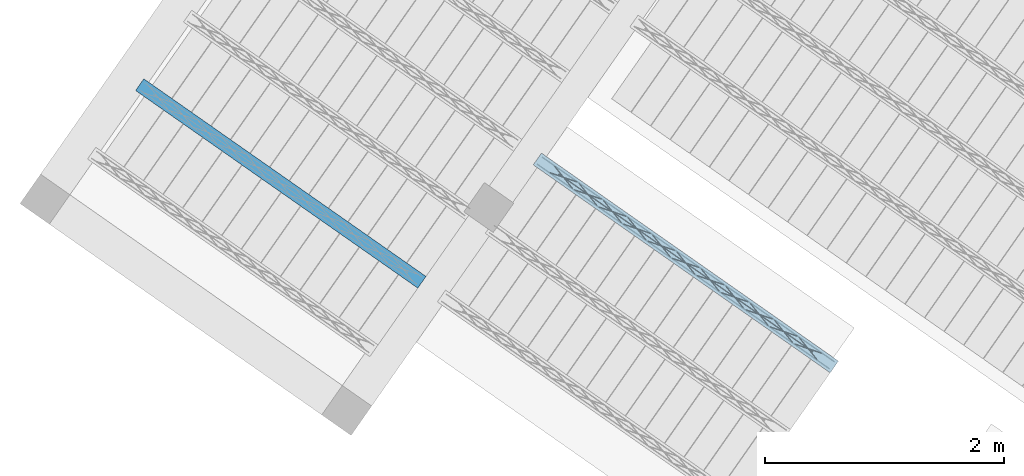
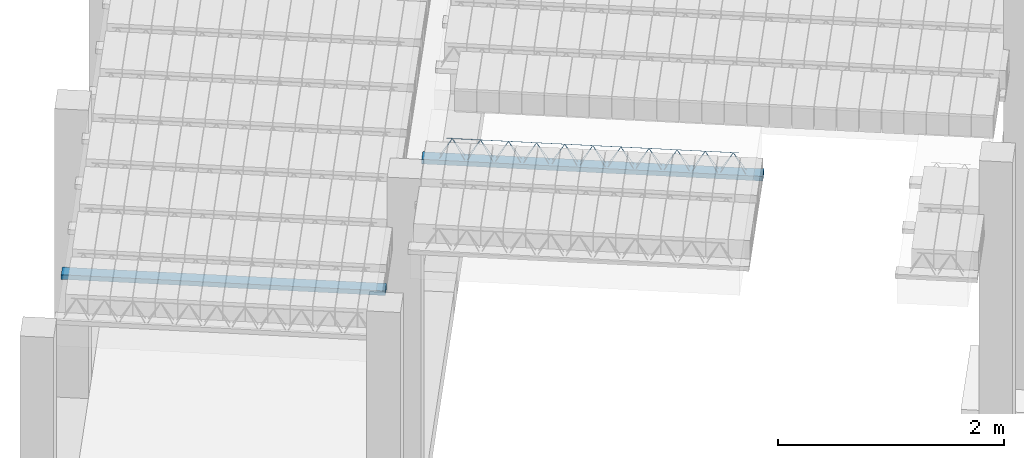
# One storey, part 9 of 80: 2 beams.
"""IFC2X3 building model written with IfcOpenShell, lengths in metres."""

from ifc_helpers import new_model, entity, si_unit, converted_unit, derived_unit, direction, frame, frame_2d, origin, origin_2d_with_axis, place, context, subcontext, project, spatial, rectangle, circle, extrude, material, type_object, element, save


model = new_model("IFC2X3")

# Units and contexts
model_context = context("Model", 3, precision=1e-05, world=origin(), true_north=direction((6.123031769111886e-17, 1.0)))
body_context = subcontext(model_context, "Body", "Model", "MODEL_VIEW")
ifc_project = project(units=[si_unit("LENGTHUNIT", "METRE"), si_unit("AREAUNIT", "SQUARE_METRE"), si_unit("VOLUMEUNIT", "CUBIC_METRE"), converted_unit("PLANEANGLEUNIT", "DEGREE", entity("IfcPlaneAngleMeasure", 0.017453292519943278), si_unit("PLANEANGLEUNIT", "RADIAN"), dimensions=[0, 0, 0, 0, 0, 0, 0]), si_unit("MASSUNIT", "GRAM", prefix="KILO"), derived_unit("MASSDENSITYUNIT", [(si_unit("MASSUNIT", "GRAM", prefix="KILO"), 1), (si_unit("LENGTHUNIT", "METRE"), -3)]), derived_unit("IONCONCENTRATIONUNIT", [(si_unit("MASSUNIT", "GRAM", prefix="KILO"), 1), (si_unit("LENGTHUNIT", "METRE"), -3)]), derived_unit("MOMENTOFINERTIAUNIT", [(si_unit("LENGTHUNIT", "METRE"), 4)]), si_unit("TIMEUNIT", "SECOND"), si_unit("FREQUENCYUNIT", "HERTZ"), si_unit("THERMODYNAMICTEMPERATUREUNIT", "DEGREE_CELSIUS"), derived_unit("THERMALTRANSMITTANCEUNIT", [(si_unit("MASSUNIT", "GRAM", prefix="KILO"), 1), (si_unit("THERMODYNAMICTEMPERATUREUNIT", "KELVIN"), -1), (si_unit("TIMEUNIT", "SECOND"), -3)]), derived_unit("THERMALCONDUCTANCEUNIT", [(si_unit("MASSUNIT", "GRAM", prefix="KILO"), 1), (si_unit("THERMODYNAMICTEMPERATUREUNIT", "KELVIN"), -1), (si_unit("TIMEUNIT", "SECOND"), -3), (si_unit("LENGTHUNIT", "METRE"), 1)]), derived_unit("VOLUMETRICFLOWRATEUNIT", [(si_unit("LENGTHUNIT", "METRE", prefix="DECI"), 3), (si_unit("TIMEUNIT", "SECOND"), -1)]), derived_unit("MASSFLOWRATEUNIT", [(si_unit("MASSUNIT", "GRAM", prefix="KILO"), 1), (si_unit("TIMEUNIT", "SECOND"), -1)]), derived_unit("ROTATIONALFREQUENCYUNIT", [(si_unit("TIMEUNIT", "SECOND"), -1)]), si_unit("ELECTRICCURRENTUNIT", "AMPERE"), si_unit("ELECTRICVOLTAGEUNIT", "VOLT"), si_unit("POWERUNIT", "WATT"), si_unit("FORCEUNIT", "NEWTON", prefix="KILO"), si_unit("ILLUMINANCEUNIT", "LUX"), si_unit("LUMINOUSFLUXUNIT", "LUMEN"), si_unit("LUMINOUSINTENSITYUNIT", "CANDELA"), si_unit("ENERGYUNIT", "JOULE"), derived_unit("USERDEFINED", [(si_unit("MASSUNIT", "GRAM", prefix="KILO"), -1), (si_unit("LENGTHUNIT", "METRE"), -2), (si_unit("TIMEUNIT", "SECOND"), 3), (si_unit("LUMINOUSFLUXUNIT", "LUMEN"), 1)]), derived_unit("USERDEFINED", [(si_unit("MASSUNIT", "GRAM", prefix="KILO"), 1), (si_unit("TIMEUNIT", "SECOND"), -3), (si_unit("LENGTHUNIT", "METRE"), 3), (si_unit("ELECTRICCURRENTUNIT", "AMPERE"), -2)]), derived_unit("SOUNDPOWERUNIT", [(si_unit("MASSUNIT", "GRAM", prefix="KILO"), 1), (si_unit("TIMEUNIT", "SECOND"), -3), (si_unit("LENGTHUNIT", "METRE"), 2)]), derived_unit("SOUNDPRESSUREUNIT", [(si_unit("MASSUNIT", "GRAM", prefix="KILO"), 1), (si_unit("LENGTHUNIT", "METRE"), -1), (si_unit("TIMEUNIT", "SECOND"), -2)]), derived_unit("LINEARVELOCITYUNIT", [(si_unit("LENGTHUNIT", "METRE"), 1), (si_unit("TIMEUNIT", "SECOND"), -1)]), si_unit("PRESSUREUNIT", "PASCAL"), derived_unit("USERDEFINED", [(si_unit("MASSUNIT", "GRAM", prefix="KILO"), 1), (si_unit("LENGTHUNIT", "METRE"), -2), (si_unit("TIMEUNIT", "SECOND"), -2)]), derived_unit("LINEARFORCEUNIT", [(si_unit("MASSUNIT", "GRAM", prefix="KILO"), 1), (si_unit("TIMEUNIT", "SECOND"), -2)]), derived_unit("PLANARFORCEUNIT", [(si_unit("MASSUNIT", "GRAM", prefix="KILO"), 1), (si_unit("LENGTHUNIT", "METRE"), -1), (si_unit("TIMEUNIT", "SECOND"), -2)]), derived_unit("SPECIFICHEATCAPACITYUNIT", [(si_unit("THERMODYNAMICTEMPERATUREUNIT", "KELVIN"), -1), (si_unit("LENGTHUNIT", "METRE"), 2), (si_unit("TIMEUNIT", "SECOND"), -2)]), derived_unit("HEATFLUXDENSITYUNIT", [(si_unit("MASSUNIT", "GRAM", prefix="KILO"), 1), (si_unit("TIMEUNIT", "SECOND"), -3)]), derived_unit("HEATINGVALUEUNIT", [(si_unit("LENGTHUNIT", "METRE"), 2), (si_unit("TIMEUNIT", "SECOND"), -2)]), derived_unit("VAPORPERMEABILITYUNIT", [(si_unit("LENGTHUNIT", "METRE"), -1), (si_unit("TIMEUNIT", "SECOND"), 1)]), derived_unit("DYNAMICVISCOSITYUNIT", [(si_unit("MASSUNIT", "GRAM", prefix="KILO"), 1), (si_unit("TIMEUNIT", "SECOND"), -1), (si_unit("LENGTHUNIT", "METRE"), -1)]), derived_unit("THERMALEXPANSIONCOEFFICIENTUNIT", [(si_unit("THERMODYNAMICTEMPERATUREUNIT", "KELVIN"), -1)]), derived_unit("MODULUSOFELASTICITYUNIT", [(si_unit("MASSUNIT", "GRAM", prefix="KILO"), 1), (si_unit("LENGTHUNIT", "METRE"), -1), (si_unit("TIMEUNIT", "SECOND"), -2)]), derived_unit("ISOTHERMALMOISTURECAPACITYUNIT", [(si_unit("MASSUNIT", "GRAM", prefix="KILO"), -1), (si_unit("LENGTHUNIT", "METRE"), 3)]), derived_unit("MOISTUREDIFFUSIVITYUNIT", [(si_unit("TIMEUNIT", "SECOND"), -1), (si_unit("LENGTHUNIT", "METRE"), 2)]), derived_unit("MASSPERLENGTHUNIT", [(si_unit("MASSUNIT", "GRAM", prefix="KILO"), 1), (si_unit("LENGTHUNIT", "METRE"), -1)]), derived_unit("THERMALRESISTANCEUNIT", [(si_unit("MASSUNIT", "GRAM", prefix="KILO"), -1), (si_unit("TIMEUNIT", "SECOND"), 3), (si_unit("THERMODYNAMICTEMPERATUREUNIT", "KELVIN"), 1)]), derived_unit("ACCELERATIONUNIT", [(si_unit("LENGTHUNIT", "METRE"), 1), (si_unit("TIMEUNIT", "SECOND"), -2)]), derived_unit("ANGULARVELOCITYUNIT", [(si_unit("TIMEUNIT", "SECOND"), -1), (si_unit("PLANEANGLEUNIT", "RADIAN"), 1)]), derived_unit("LINEARSTIFFNESSUNIT", [(si_unit("MASSUNIT", "GRAM", prefix="KILO"), 1), (si_unit("TIMEUNIT", "SECOND"), -2)]), derived_unit("WARPINGCONSTANTUNIT", [(si_unit("LENGTHUNIT", "METRE"), 6)]), derived_unit("LINEARMOMENTUNIT", [(si_unit("MASSUNIT", "GRAM", prefix="KILO"), 1), (si_unit("LENGTHUNIT", "METRE"), 1), (si_unit("TIMEUNIT", "SECOND"), -2)]), derived_unit("TORQUEUNIT", [(si_unit("MASSUNIT", "GRAM", prefix="KILO"), 1), (si_unit("LENGTHUNIT", "METRE"), 2), (si_unit("TIMEUNIT", "SECOND"), -2)])], contexts=[model_context])

# Site, building, storey
site_placement = place(None, origin())
site = spatial("IfcSite", under=ifc_project, at=site_placement, Name="Default", CompositionType="ELEMENT")
building_placement = place(site_placement, origin())
building = spatial("IfcBuilding", under=site, at=building_placement, CompositionType="ELEMENT")
storey_placement = place(building_placement, frame((0.0, 0.0, 95.94)))
storey = spatial("IfcBuildingStorey", under=building, at=storey_placement, Name="PB", CompositionType="ELEMENT", Elevation=95.94)

# Beams
beam_type = type_object("IfcBeamType", Name="Vigueta 3 (Paño 13) (Mf = 11.97)", PredefinedType="JOIST")
beam_1_placement = place(storey_placement, origin())
element("IfcBeam", 1, at=beam_1_placement, inside=storey, type_object=beam_type, Name="Vigueta 3 (Paño 13) (Mf = 11.97)", ObjectType="Mf = 11.97", context=body_context, shape_type="SweptSolid", body=[
    extrude(rectangle(XDim=3.0351844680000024, YDim=0.1200000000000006, at=origin_2d_with_axis()), frame((3.794289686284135, 1.7993815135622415, 3.2799999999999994), z_axis=(0.0, 0.0, 1.0), x_axis=(0.8191520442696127, -0.5735764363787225, 0.0)), (0.0, 0.0, 1.0), 0.04999999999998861),
    extrude(circle(Radius=0.0025, at=origin_2d_with_axis()), frame((4.9971200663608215, 0.913202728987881, 3.3049999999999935), z_axis=(-0.8191520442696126, 0.5735764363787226, 0.0), x_axis=(-0.5735764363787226, -0.8191520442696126, 0.0)), (0.0, 0.0, 1.0), 2.9871844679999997),
    extrude(circle(Radius=0.0025, at=origin_2d_with_axis()), frame((2.7293920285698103, 2.545030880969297, 3.5299999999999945), z_axis=(0.8191520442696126, -0.5735764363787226, 0.0), x_axis=(-0.5735764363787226, -0.8191520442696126, 0.0)), (0.0, 0.0, 1.0), 2.6),
    extrude(circle(Radius=0.0025, at=origin_2d_with_axis()), frame((4.899974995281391, 0.9812244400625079, 3.3049999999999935), z_axis=(-0.3145304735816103, 0.389334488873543, 0.8657304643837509), x_axis=(-0.7778747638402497, -0.6284193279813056, 0.0)), (0.0, 0.0, 1.0), 0.2598961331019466),
    extrude(circle(Radius=0.0025, at=origin_2d_with_axis()), frame((4.69518698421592, 1.1246185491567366, 3.3049999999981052), z_axis=(0.47343050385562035, -0.1624017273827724, 0.8657304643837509), x_axis=(-0.3244721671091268, -0.9458952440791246, 0.0)), (0.0, 0.0, 1.0), 0.25989613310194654),
    extrude(circle(Radius=0.0025, at=origin_2d_with_axis()), frame((4.695186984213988, 1.1246185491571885, 3.3049999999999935), z_axis=(-0.3145304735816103, 0.389334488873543, 0.8657304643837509), x_axis=(-0.7778747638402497, -0.6284193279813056, 0.0)), (0.0, 0.0, 1.0), 0.2598961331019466),
    extrude(circle(Radius=0.0025, at=origin_2d_with_axis()), frame((4.490398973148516, 1.2680126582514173, 3.3049999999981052), z_axis=(0.47343050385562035, -0.1624017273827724, 0.8657304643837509), x_axis=(-0.3244721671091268, -0.9458952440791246, 0.0)), (0.0, 0.0, 1.0), 0.25989613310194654),
    extrude(circle(Radius=0.0025, at=origin_2d_with_axis()), frame((4.4903989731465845, 1.2680126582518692, 3.3049999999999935), z_axis=(-0.3145304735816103, 0.389334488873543, 0.8657304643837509), x_axis=(-0.7778747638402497, -0.6284193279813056, 0.0)), (0.0, 0.0, 1.0), 0.2598961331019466),
    extrude(circle(Radius=0.0025, at=origin_2d_with_axis()), frame((4.285610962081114, 1.411406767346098, 3.3049999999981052), z_axis=(0.47343050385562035, -0.1624017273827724, 0.8657304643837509), x_axis=(-0.3244721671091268, -0.9458952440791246, 0.0)), (0.0, 0.0, 1.0), 0.25989613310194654),
    extrude(circle(Radius=0.0025, at=origin_2d_with_axis()), frame((4.285610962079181, 1.4114067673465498, 3.3049999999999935), z_axis=(-0.3145304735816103, 0.389334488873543, 0.8657304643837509), x_axis=(-0.7778747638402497, -0.6284193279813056, 0.0)), (0.0, 0.0, 1.0), 0.2598961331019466),
    extrude(circle(Radius=0.0025, at=origin_2d_with_axis()), frame((4.080822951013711, 1.5548008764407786, 3.3049999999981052), z_axis=(0.47343050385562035, -0.1624017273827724, 0.8657304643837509), x_axis=(-0.3244721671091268, -0.9458952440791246, 0.0)), (0.0, 0.0, 1.0), 0.25989613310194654),
    extrude(circle(Radius=0.0025, at=origin_2d_with_axis()), frame((4.080822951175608, 1.554800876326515, 3.3049999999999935), z_axis=(-0.3145304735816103, 0.389334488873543, 0.8657304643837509), x_axis=(-0.7778747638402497, -0.6284193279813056, 0.0)), (0.0, 0.0, 1.0), 0.2598961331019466),
    extrude(circle(Radius=0.0025, at=origin_2d_with_axis()), frame((3.876034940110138, 1.698194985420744, 3.3049999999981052), z_axis=(0.47343050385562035, -0.1624017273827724, 0.8657304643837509), x_axis=(-0.3244721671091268, -0.9458952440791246, 0.0)), (0.0, 0.0, 1.0), 0.25989613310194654),
    extrude(circle(Radius=0.0025, at=origin_2d_with_axis()), frame((3.8760349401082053, 1.698194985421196, 3.3049999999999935), z_axis=(-0.3145304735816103, 0.389334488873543, 0.8657304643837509), x_axis=(-0.7778747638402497, -0.6284193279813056, 0.0)), (0.0, 0.0, 1.0), 0.2598961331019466),
    extrude(circle(Radius=0.0025, at=origin_2d_with_axis()), frame((3.6712469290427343, 1.8415890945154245, 3.3049999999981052), z_axis=(0.47343050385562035, -0.1624017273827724, 0.8657304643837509), x_axis=(-0.3244721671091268, -0.9458952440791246, 0.0)), (0.0, 0.0, 1.0), 0.25989613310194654),
    extrude(circle(Radius=0.0025, at=origin_2d_with_axis()), frame((3.671246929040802, 1.8415890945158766, 3.3049999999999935), z_axis=(-0.3145304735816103, 0.389334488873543, 0.8657304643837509), x_axis=(-0.7778747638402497, -0.6284193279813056, 0.0)), (0.0, 0.0, 1.0), 0.2598961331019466),
    extrude(circle(Radius=0.0025, at=origin_2d_with_axis()), frame((3.4664589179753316, 1.9849832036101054, 3.3049999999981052), z_axis=(0.47343050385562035, -0.1624017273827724, 0.8657304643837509), x_axis=(-0.3244721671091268, -0.9458952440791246, 0.0)), (0.0, 0.0, 1.0), 0.25989613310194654),
    extrude(circle(Radius=0.0025, at=origin_2d_with_axis()), frame((3.466458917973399, 1.9849832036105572, 3.3049999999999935), z_axis=(-0.3145304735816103, 0.389334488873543, 0.8657304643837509), x_axis=(-0.7778747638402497, -0.6284193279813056, 0.0)), (0.0, 0.0, 1.0), 0.2598961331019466),
    extrude(circle(Radius=0.0025, at=origin_2d_with_axis()), frame((3.2616709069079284, 2.1283773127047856, 3.3049999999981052), z_axis=(0.47343050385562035, -0.1624017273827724, 0.8657304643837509), x_axis=(-0.3244721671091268, -0.9458952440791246, 0.0)), (0.0, 0.0, 1.0), 0.25989613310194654),
    extrude(circle(Radius=0.0025, at=origin_2d_with_axis()), frame((3.2616709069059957, 2.1283773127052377, 3.3049999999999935), z_axis=(-0.3145304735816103, 0.389334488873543, 0.8657304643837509), x_axis=(-0.7778747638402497, -0.6284193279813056, 0.0)), (0.0, 0.0, 1.0), 0.2598961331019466),
    extrude(circle(Radius=0.0025, at=origin_2d_with_axis()), frame((3.0568828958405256, 2.2717714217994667, 3.3049999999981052), z_axis=(0.47343050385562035, -0.1624017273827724, 0.8657304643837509), x_axis=(-0.3244721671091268, -0.9458952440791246, 0.0)), (0.0, 0.0, 1.0), 0.25989613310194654),
    extrude(circle(Radius=0.0025, at=origin_2d_with_axis()), frame((3.056882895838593, 2.271771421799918, 3.3049999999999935), z_axis=(-0.3145304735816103, 0.389334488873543, 0.8657304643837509), x_axis=(-0.7778747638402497, -0.6284193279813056, 0.0)), (0.0, 0.0, 1.0), 0.2598961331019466),
    extrude(circle(Radius=0.0025, at=origin_2d_with_axis()), frame((2.8520948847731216, 2.4151655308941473, 3.3049999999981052), z_axis=(0.47343050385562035, -0.1624017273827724, 0.8657304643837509), x_axis=(-0.3244721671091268, -0.9458952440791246, 0.0)), (0.0, 0.0, 1.0), 0.25989613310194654),
    extrude(circle(Radius=0.0025, at=origin_2d_with_axis()), frame((2.8520948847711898, 2.415165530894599, 3.3049999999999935), z_axis=(-0.3145304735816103, 0.389334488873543, 0.8657304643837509), x_axis=(-0.7778747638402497, -0.6284193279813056, 0.0)), (0.0, 0.0, 1.0), 0.2598961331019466),
    extrude(circle(Radius=0.0025, at=origin_2d_with_axis()), frame((2.647306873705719, 2.558559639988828, 3.3049999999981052), z_axis=(0.47343050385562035, -0.1624017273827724, 0.8657304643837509), x_axis=(-0.3244721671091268, -0.9458952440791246, 0.0)), (0.0, 0.0, 1.0), 0.25989613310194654),
    extrude(circle(Radius=0.0025, at=origin_2d_with_axis()), frame((5.038417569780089, 0.972181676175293, 3.3049999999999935), z_axis=(-0.8191520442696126, 0.5735764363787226, 0.0), x_axis=(-0.5735764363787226, -0.8191520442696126, 0.0)), (0.0, 0.0, 1.0), 2.9871844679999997),
    extrude(circle(Radius=0.0025, at=origin_2d_with_axis()), frame((4.941272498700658, 1.04020338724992, 3.3049999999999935), z_axis=(-0.47343050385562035, 0.1624017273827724, 0.8657304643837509), x_axis=(-0.3244721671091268, -0.9458952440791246, 0.0)), (0.0, 0.0, 1.0), 0.25989613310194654),
    extrude(circle(Radius=0.0025, at=origin_2d_with_axis()), frame((4.736484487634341, 1.1835974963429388, 3.3049999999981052), z_axis=(0.3145304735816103, -0.389334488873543, 0.8657304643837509), x_axis=(-0.7778747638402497, -0.6284193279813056, 0.0)), (0.0, 0.0, 1.0), 0.2598961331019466),
    extrude(circle(Radius=0.0025, at=origin_2d_with_axis()), frame((4.7364844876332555, 1.1835974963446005, 3.3049999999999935), z_axis=(-0.47343050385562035, 0.1624017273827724, 0.8657304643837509), x_axis=(-0.3244721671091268, -0.9458952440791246, 0.0)), (0.0, 0.0, 1.0), 0.25989613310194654),
    extrude(circle(Radius=0.0025, at=origin_2d_with_axis()), frame((4.531696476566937, 1.3269916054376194, 3.3049999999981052), z_axis=(0.3145304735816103, -0.389334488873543, 0.8657304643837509), x_axis=(-0.7778747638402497, -0.6284193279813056, 0.0)), (0.0, 0.0, 1.0), 0.2598961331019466),
    extrude(circle(Radius=0.0025, at=origin_2d_with_axis()), frame((4.531696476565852, 1.3269916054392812, 3.3049999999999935), z_axis=(-0.47343050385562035, 0.1624017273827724, 0.8657304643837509), x_axis=(-0.3244721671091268, -0.9458952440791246, 0.0)), (0.0, 0.0, 1.0), 0.25989613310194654),
    extrude(circle(Radius=0.0025, at=origin_2d_with_axis()), frame((4.3269084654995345, 1.4703857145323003, 3.3049999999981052), z_axis=(0.3145304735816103, -0.389334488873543, 0.8657304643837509), x_axis=(-0.7778747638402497, -0.6284193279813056, 0.0)), (0.0, 0.0, 1.0), 0.2598961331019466),
    extrude(circle(Radius=0.0025, at=origin_2d_with_axis()), frame((4.326908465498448, 1.4703857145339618, 3.3049999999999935), z_axis=(-0.47343050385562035, 0.1624017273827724, 0.8657304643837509), x_axis=(-0.3244721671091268, -0.9458952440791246, 0.0)), (0.0, 0.0, 1.0), 0.25989613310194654),
    extrude(circle(Radius=0.0025, at=origin_2d_with_axis()), frame((4.122120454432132, 1.6137798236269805, 3.3049999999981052), z_axis=(0.3145304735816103, -0.389334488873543, 0.8657304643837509), x_axis=(-0.7778747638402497, -0.6284193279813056, 0.0)), (0.0, 0.0, 1.0), 0.2598961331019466),
    extrude(circle(Radius=0.0025, at=origin_2d_with_axis()), frame((4.122120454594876, 1.6137798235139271, 3.3049999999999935), z_axis=(-0.47343050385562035, 0.1624017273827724, 0.8657304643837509), x_axis=(-0.3244721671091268, -0.9458952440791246, 0.0)), (0.0, 0.0, 1.0), 0.25989613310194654),
    extrude(circle(Radius=0.0025, at=origin_2d_with_axis()), frame((3.917332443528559, 1.7571739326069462, 3.3049999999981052), z_axis=(0.3145304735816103, -0.389334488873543, 0.8657304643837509), x_axis=(-0.7778747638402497, -0.6284193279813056, 0.0)), (0.0, 0.0, 1.0), 0.2598961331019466),
    extrude(circle(Radius=0.0025, at=origin_2d_with_axis()), frame((3.917332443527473, 1.757173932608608, 3.3049999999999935), z_axis=(-0.47343050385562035, 0.1624017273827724, 0.8657304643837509), x_axis=(-0.3244721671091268, -0.9458952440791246, 0.0)), (0.0, 0.0, 1.0), 0.25989613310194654),
    extrude(circle(Radius=0.0025, at=origin_2d_with_axis()), frame((3.712544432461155, 1.9005680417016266, 3.3049999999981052), z_axis=(0.3145304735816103, -0.389334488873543, 0.8657304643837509), x_axis=(-0.7778747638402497, -0.6284193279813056, 0.0)), (0.0, 0.0, 1.0), 0.2598961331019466),
    extrude(circle(Radius=0.0025, at=origin_2d_with_axis()), frame((3.71254443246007, 1.9005680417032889, 3.3049999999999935), z_axis=(-0.47343050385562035, 0.1624017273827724, 0.8657304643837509), x_axis=(-0.3244721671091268, -0.9458952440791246, 0.0)), (0.0, 0.0, 1.0), 0.25989613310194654),
    extrude(circle(Radius=0.0025, at=origin_2d_with_axis()), frame((3.5077564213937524, 2.0439621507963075, 3.3049999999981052), z_axis=(0.3145304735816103, -0.389334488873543, 0.8657304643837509), x_axis=(-0.7778747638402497, -0.6284193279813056, 0.0)), (0.0, 0.0, 1.0), 0.2598961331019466),
    extrude(circle(Radius=0.0025, at=origin_2d_with_axis()), frame((3.5077564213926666, 2.0439621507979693, 3.3049999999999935), z_axis=(-0.47343050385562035, 0.1624017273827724, 0.8657304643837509), x_axis=(-0.3244721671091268, -0.9458952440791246, 0.0)), (0.0, 0.0, 1.0), 0.25989613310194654),
    extrude(circle(Radius=0.0025, at=origin_2d_with_axis()), frame((3.3029684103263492, 2.1873562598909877, 3.3049999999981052), z_axis=(0.3145304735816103, -0.389334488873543, 0.8657304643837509), x_axis=(-0.7778747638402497, -0.6284193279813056, 0.0)), (0.0, 0.0, 1.0), 0.2598961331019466),
    extrude(circle(Radius=0.0025, at=origin_2d_with_axis()), frame((3.3029684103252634, 2.1873562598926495, 3.3049999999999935), z_axis=(-0.47343050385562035, 0.1624017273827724, 0.8657304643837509), x_axis=(-0.3244721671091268, -0.9458952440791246, 0.0)), (0.0, 0.0, 1.0), 0.25989613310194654),
    extrude(circle(Radius=0.0025, at=origin_2d_with_axis()), frame((3.0981803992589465, 2.330750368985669, 3.3049999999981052), z_axis=(0.3145304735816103, -0.389334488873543, 0.8657304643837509), x_axis=(-0.7778747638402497, -0.6284193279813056, 0.0)), (0.0, 0.0, 1.0), 0.2598961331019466),
    extrude(circle(Radius=0.0025, at=origin_2d_with_axis()), frame((3.0981803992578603, 2.33075036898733, 3.3049999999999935), z_axis=(-0.47343050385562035, 0.1624017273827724, 0.8657304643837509), x_axis=(-0.3244721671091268, -0.9458952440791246, 0.0)), (0.0, 0.0, 1.0), 0.25989613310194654),
    extrude(circle(Radius=0.0025, at=origin_2d_with_axis()), frame((2.8933923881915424, 2.4741444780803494, 3.3049999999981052), z_axis=(0.3145304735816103, -0.389334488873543, 0.8657304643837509), x_axis=(-0.7778747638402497, -0.6284193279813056, 0.0)), (0.0, 0.0, 1.0), 0.2598961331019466),
    extrude(circle(Radius=0.0025, at=origin_2d_with_axis()), frame((2.8933923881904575, 2.474144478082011, 3.3049999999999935), z_axis=(-0.47343050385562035, 0.1624017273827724, 0.8657304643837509), x_axis=(-0.3244721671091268, -0.9458952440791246, 0.0)), (0.0, 0.0, 1.0), 0.25989613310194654),
    extrude(circle(Radius=0.0025, at=origin_2d_with_axis()), frame((2.6886043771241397, 2.6175385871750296, 3.3049999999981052), z_axis=(0.3145304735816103, -0.389334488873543, 0.8657304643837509), x_axis=(-0.7778747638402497, -0.6284193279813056, 0.0)), (0.0, 0.0, 1.0), 0.2598961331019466),
])
ifc_material = material(Name="Hormigón armado")
beam_2_placement = place(storey_placement, origin())
element("IfcBeam", 2, at=beam_2_placement, inside=storey, material=ifc_material, Name="237960", context=body_context, shape_type="SweptSolid", body=[
    extrude(rectangle(XDim=0.04999999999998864, YDim=0.11999999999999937, at=frame_2d((1.7324683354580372e-14, 4.163336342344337e-17), x_axis=(1.0, 0.0))), frame((-0.7787305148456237, 3.292360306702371, 2.8450000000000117), z_axis=(0.8191520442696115, -0.573576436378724, 0.0), x_axis=(0.0, 0.0, -1.0)), (0.0, 0.0, 1.0), 2.8847440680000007),
])

save(model, "model.ifc")
